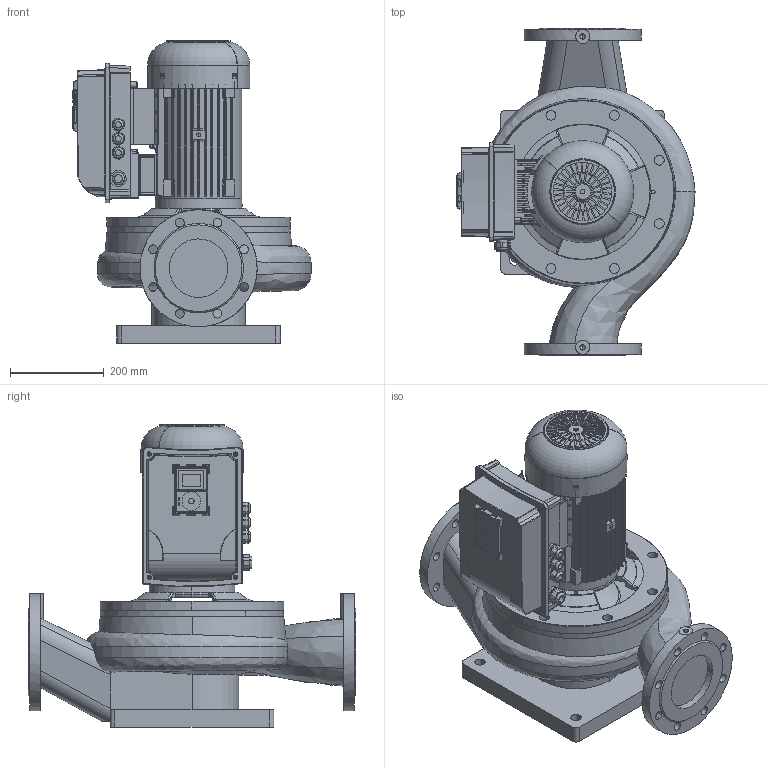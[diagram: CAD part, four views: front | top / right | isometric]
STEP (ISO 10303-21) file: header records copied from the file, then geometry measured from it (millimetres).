
FILE_DESCRIPTION(('STEP AP214'),'1');
FILE_NAME('export.stp','2018-06-01T13:32:44',(' '),(' '),'Spatial InterOp 3D',' ',' ');
FILE_SCHEMA(('AUTOMOTIVE_DESIGN { 1 0 10303 214 1 1 1 1 }'));
Length unit declared in the file: millimetre
Products named in the file (26): W_ALP11284400KPVS; V_TLL100SAL1202; V_PPALP1128; PP_ALP1128_kesken; Tukijalka_ALP1128; 440017; 440016; W_MKP112-2-F31_VS; 480018; 480017; 440018; 440021; Vacon_MS2; G43699; Vacon20CP_MS2; MS2_bottom_final; P101407; MS2_cover_final; Vacon_Display; CAD-3D-VACON-M100-Display.sldasm; Vacon_display_pla; Vacon_display_scr; DIN_966-M5x10; M20_tiivisteholkk; M25_tiivisteholkk; SOVITUSPALA
Assembly tree (30 placements, depth 6):
  W_ALP11284400KPVS
    V_TLL100SAL1202
    V_PPALP1128
      PP_ALP1128_kesken
      Tukijalka_ALP1128
    W_MKP112-2-F31_VS
      440017
        440016
      480018
        480017
      440018
      440021
      Vacon_MS2
        G43699
        Vacon20CP_MS2
          MS2_bottom_final
          P101407
          MS2_cover_final
          Vacon_Display
            CAD-3D-VACON-M100-Display.sldasm
            Vacon_display_pla
            Vacon_display_scr
          DIN_966-M5x10  x4
          M20_tiivisteholkk  x3
          M25_tiivisteholkk
      SOVITUSPALA
Bounding box: 508.31 x 700 x 645.4 mm (x, y, z)
Volume: 35448685.8 mm3; surface area: 3380982.2 mm2
Topology: 22 solids, 1495 shells, 4313 faces, 15464 edges, 12667 vertices
Faces by surface type: bspline 1587, cylinder 1208, plane 954, torus 282, cone 243, sphere 39
Entity records: 206684 total; most frequent: CARTESIAN_POINT 85073, ORIENTED_EDGE 22104, EDGE_CURVE 14874, DIRECTION 14313, VERTEX_POINT 12349, B_SPLINE_CURVE_WITH_KNOTS 7422, AXIS2_PLACEMENT_3D 5581, EDGE_LOOP 4593
